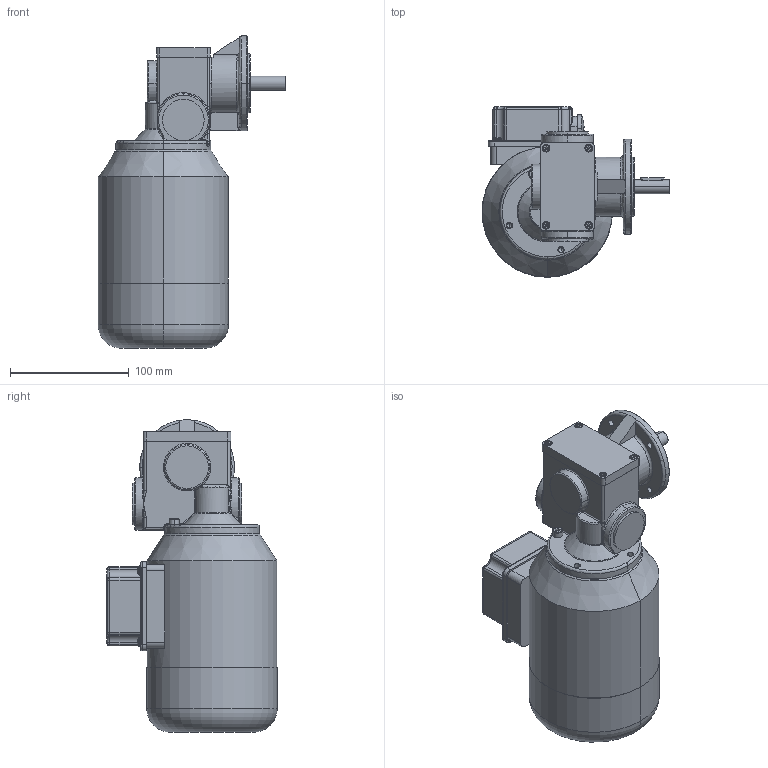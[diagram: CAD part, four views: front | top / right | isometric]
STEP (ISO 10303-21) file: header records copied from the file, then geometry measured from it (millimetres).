
FILE_DESCRIPTION (( 'STEP AP214' ), '1' );
FILE_NAME ('SN6F_120W_2800Upm_Drehstrom-Motor_A.STEP', '2021-08-10T08:48:30', ( '' ), ( '' ), 'SwSTEP 2.0', 'SolidWorks 2019', '' );
FILE_SCHEMA (( 'AUTOMOTIVE_DESIGN' ));
Length unit declared in the file: millimetre
Products named in the file (11): socket head cap screw_din_DIN 912 M5 x 16 --- 16C; 06-M-066 I 120W_2800Upm; 06F-W-003_3D-Export; PF_A4x4x20; 06F-D-003_3D-Export; socket head cap screw_din_DIN 912 M3 x 10 --- 10C; NBR_WDR_12x32x7; SN6F_120W_2800Upm_Drehstrom-Motor_A; SN6F_3D-Export_alte Verschlusskappe 06-S-002; 06-S-002; 06F-G-002_3D-Export
Assembly tree (14 placements, depth 3):
  SN6F_120W_2800Upm_Drehstrom-Motor_A
    SN6F_3D-Export_alte Verschlusskappe 06-S-002
      06F-G-002_3D-Export
      06F-D-003_3D-Export
      06F-W-003_3D-Export
      socket head cap screw_din_DIN 912 M3 x 10 --- 10C  x4
      socket head cap screw_din_DIN 912 M5 x 16 --- 16C
      NBR_WDR_12x32x7
      PF_A4x4x20
      06-S-002  x2
    06-M-066 I 120W_2800Upm
Bounding box: 158.5 x 143.7 x 263.5 mm (x, y, z)
Volume: 2012702.8 mm3; surface area: 173249.7 mm2
Topology: 14 solids, 14 shells, 889 faces, 2185 edges, 1318 vertices
Faces by surface type: cylinder 279, plane 215, torus 162, cone 146, bspline 59, sphere 28
Entity records: 28637 total; most frequent: CARTESIAN_POINT 9248, DIRECTION 4199, ORIENTED_EDGE 3880, EDGE_CURVE 1940, AXIS2_PLACEMENT_3D 1791, VERTEX_POINT 1205, CIRCLE 1036, EDGE_LOOP 863
